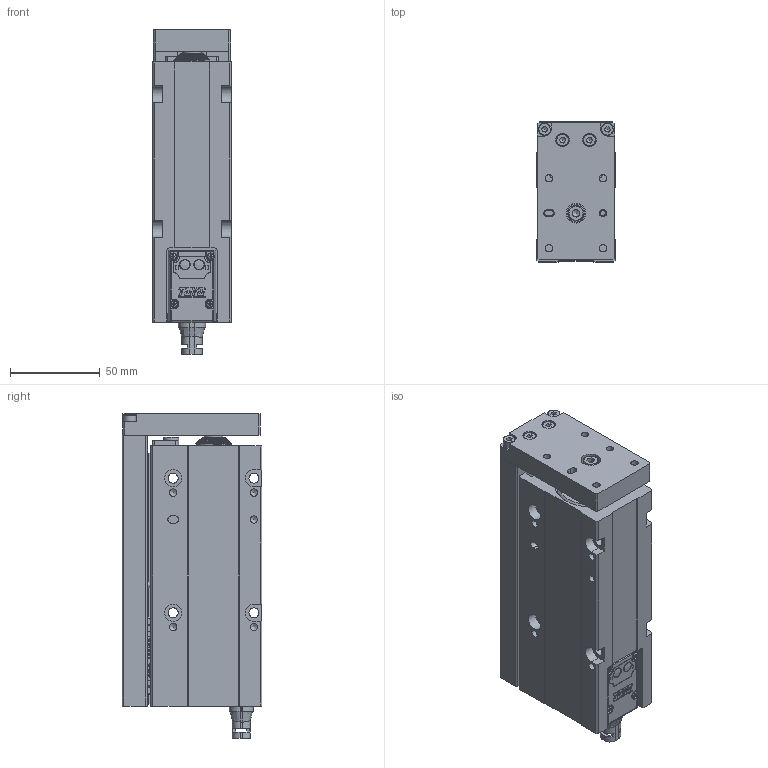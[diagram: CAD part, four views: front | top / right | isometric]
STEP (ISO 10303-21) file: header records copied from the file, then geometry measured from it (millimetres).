
FILE_DESCRIPTION((''),'2;1');
FILE_NAME('C:\Users\RD_15\Desktop\DMH40-75-3D外型.stp','2020-10-20T14:33:02',('RD_15'),(''),'Autodesk Inventor 2013','Autodesk Inventor 2013','');
FILE_SCHEMA(('AUTOMOTIVE_DESIGN { 1 0 10303 214 1 1 1 1 }'));
Length unit declared in the file: millimetre
Products named in the file (52): 組合82; DMH40-75本體; 零件7673; 零件7675; 零件7677; 零件7679; 零件7683; 零件7685; 零件7687; 零件7689; 零件7691; 零件7693; 零件7695; 零件7697; 零件7699; 零件7701; 零件7703; 零件7705; 零件7707; 零件7709; 零件7711; 零件7713; 零件7715; 零件7717; 零件7719; 零件7721; 零件7723; 零件7725; 零件4738; 零件4842; 零件4844; 零件4846; 零件4848; 零件4850; 零件4852; 零件4854; 零件4856; 零件4858; 零件4860; 零件4862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
Assembly tree (53 placements, depth 2):
  組合82
    DMH40-75本體
    零件7673
    零件7675
    零件7677
    零件7679
    零件7683
    零件7685
    零件7687
    零件7689
    零件7691
    零件7693
    零件7695
    零件7697
    零件7699
    零件7701
    零件7703
    零件7705
    零件7707
    零件7709
    零件7711
    零件7713
    零件7715
    零件7717
    零件7719
    零件7721
    零件7723
    零件7725
    零件4738
    零件4842
    零件4844
    零件4846
    零件4848
    零件4850
    零件4852
    零件4854
    零件4856
    零件4858
    零件4860
    零件4862
    零件4864
    零件4866
    零件4868  x3
    零件4870
    零件4872
    零件4874
    零件4876
    零件4878
    零件4880
    零件4882
    零件1666
    零件1646
Bounding box: 44 x 78 x 181 mm (x, y, z)
Volume: 492785.4 mm3; surface area: 123491.9 mm2
Topology: 53 solids, 56 shells, 3161 faces, 8269 edges, 5352 vertices
Faces by surface type: plane 2075, cylinder 388, bspline 314, cone 288, torus 82, sphere 14
Full cylindrical faces by diameter (mm): 1 x4, 1.783 x8, 1.8 x2, 2 x8, 2.5 x4, 3 x18, 3.242 x8, 3.5 x10, 4 x7, 4.059 x4, 4.134 x12, 4.2 x4, 4.5 x4, 5 x2, 5.1 x2, 5.3 x2, 5.5 x12, 5.54 x2, 5.6 x2, 5.9 x2, 6 x8, 6.2 x2, 7 x4, 7.5 x2, 8 x1, 8.5 x2, 9 x1, 9.5 x4, 10 x2, 10.3 x1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
Entity records: 112302 total; most frequent: CARTESIAN_POINT 36343, ORIENTED_EDGE 15422, DIRECTION 14220, EDGE_CURVE 7711, VECTOR 5608, LINE 5608, VERTEX_POINT 5179, AXIS2_PLACEMENT_3D 4306
